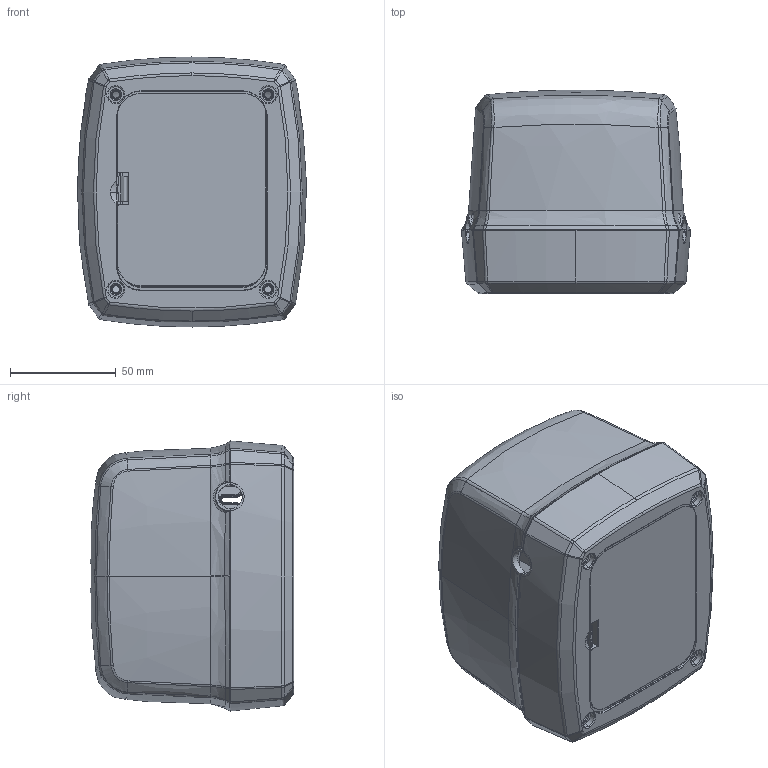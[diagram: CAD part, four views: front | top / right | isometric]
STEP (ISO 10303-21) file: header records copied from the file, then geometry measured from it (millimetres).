
FILE_DESCRIPTION (( 'STEP AP203' ), '1' );
FILE_NAME ('TP3.STEP', '2009-08-20T02:34:53', ( 'qingyunxiang' ), ( 'eng' ), 'SwSTEP 2.0', 'SolidWorks 2005204', '' );
FILE_SCHEMA (( 'CONFIG_CONTROL_DESIGN' ));
Products named in the file (4): TP3; 31605-015-電池蓋-A_預設; 31605-013-變壓器上蓋-D; 31605-014-變壓器下蓋-D
Assembly tree (3 placements, depth 2):
  TP3
    31605-015-電池蓋-A_預設
    31605-013-變壓器上蓋-D
    31605-014-變壓器下蓋-D
Bounding box: 108.26 x 96.09 x 127.62 mm (x, y, z)
Volume: 220241.2 mm3; surface area: 187519.5 mm2
Topology: 3 solids, 3 shells, 2832 faces, 7826 edges, 5014 vertices
Faces by surface type: plane 1973, cone 271, bspline 213, cylinder 201, torus 106, sphere 68
Entity records: 145082 total; most frequent: CARTESIAN_POINT 72415, ORIENTED_EDGE 15636, DIRECTION 15365, EDGE_CURVE 7818, AXIS2_PLACEMENT_3D 6093, VERTEX_POINT 5014, CIRCLE 3468, LINE 3179
